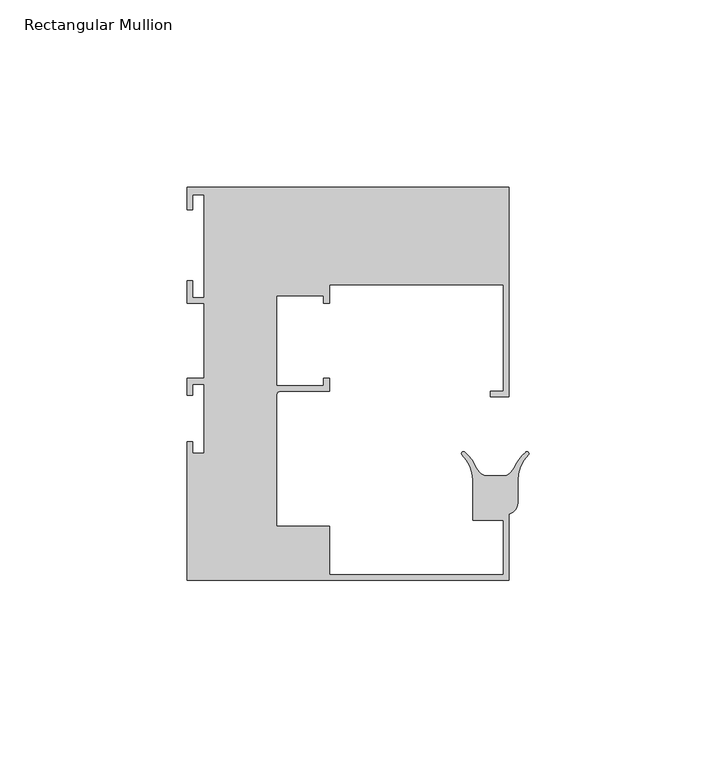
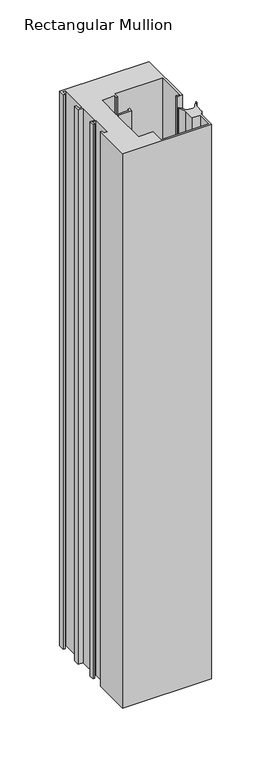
"""IFC4 building model written with IfcOpenShell, lengths in millimetres: member geometry, Rectangular Mullion : Danpal_Airpt_End-Mullion_B1."""

from ifc_helpers import new_model, si_unit, point, frame, frame_2d, origin, place, context, project, spatial, polyline, circle_curve, trimmed, segment, composite_curve, outline, extrude, source, transform, mapped, element, save


def rectangular_mullion_3ad53c9d(model_context):
    return source(origin(), model_context, "Body", "SweptSolid", [
        extrude(outline(composite_curve([segment(polyline([(28.3319078, 44.249979), (-18.1680922, 44.249979), (-18.1680922, 39.2500001), (-19.7680922, 39.2500001), (-19.7680922, 41.2500001), (-32.2500023, 41.2500001), (-32.2500023, 17.2500031), (-19.7500023, 17.2500031), (-19.7500023, 19.2500031), (-18.1500023, 19.2500031), (-18.1500023, 15.7500031), (-31.1983762, 15.7500031)]), True, "CONTINUOUS"), segment(trimmed(circle_curve(frame_2d((-31.1983762, 14.698377)), 1.0516261), [point((-31.1983762, 15.7500031))], [point((-32.2500023, 14.698377))], True, "CARTESIAN"), True, "CONTINUOUS"), segment(polyline([(-32.2500023, 14.698377), (-32.2500023, -20.2499969), (-18.1500023, -20.2499969), (-18.1500023, -33.2499969), (28.3500023, -33.2499969), (28.3500023, -18.6499969), (20.1500023, -18.6499969), (20.1500023, -7.8643287)]), True, "CONTINUOUS"), segment(trimmed(circle_curve(frame_2d((10.1541518, -8.1523787)), 10.0), [point((20.1500023, -7.8643287))], [point((17.3439806, -1.2021009))], True, "CARTESIAN"), True, "CONTINUOUS"), segment(trimmed(circle_curve(frame_2d((17.7037094, -0.8543575)), 0.5003301), [point((17.3439806, -1.2021009))], [point((18.026354, -0.4719563))], False, "CARTESIAN"), True, "CONTINUOUS"), segment(trimmed(circle_curve(frame_2d((11.5777192, -8.1149337)), 9.9999997), [point((18.026354, -0.4719563))], [point((20.5918518, -3.7853369))], False, "CARTESIAN"), True, "CONTINUOUS"), segment(trimmed(circle_curve(frame_2d((29.6059846, 0.5442599)), 10.0), [point((20.5918518, -3.7853369))], [point((21.8217605, -5.7331484))], True, "CARTESIAN"), True, "CONTINUOUS"), segment(trimmed(circle_curve(frame_2d((24.1570278, -3.8499259)), 3.0), [point((21.8217605, -5.7331484))], [point((24.1570278, -6.8499259))], True, "CARTESIAN"), True, "CONTINUOUS"), segment(polyline([(24.1570278, -6.8499259), (28.1956718, -6.8499259)]), True, "CONTINUOUS"), segment(trimmed(circle_curve(frame_2d((28.1956718, -3.8499259)), 3.0), [point((28.1956718, -6.8499259))], [point((30.5309383, -5.7331494))], True, "CARTESIAN"), True, "CONTINUOUS"), segment(trimmed(circle_curve(frame_2d((22.7467169, 0.544262)), 9.9999997), [point((30.5309383, -5.7331494))], [point((31.7608489, -3.785336))], True, "CARTESIAN"), True, "CONTINUOUS"), segment(trimmed(circle_curve(frame_2d((40.774981, -8.114934)), 9.9999998), [point((31.7608489, -3.785336))], [point((34.3289194, -0.4697862))], False, "CARTESIAN"), True, "CONTINUOUS"), segment(trimmed(circle_curve(frame_2d((34.6513305, -0.8521716)), 0.5001675), [point((34.3289194, -0.4697862))], [point((35.0108364, -1.1999114))], False, "CARTESIAN"), True, "CONTINUOUS"), segment(trimmed(circle_curve(frame_2d((42.198548, -8.1523787)), 10.0), [point((35.0108364, -1.1999114))], [point((32.1986067, -8.1181379))], True, "CARTESIAN"), True, "CONTINUOUS"), segment(polyline([(32.1986067, -8.1181379), (32.1986067, -14.1183419)]), True, "CONTINUOUS"), segment(trimmed(circle_curve(frame_2d((29.1986238, -14.1081309)), 3.0000002), [point((32.1986067, -14.1183419))], [point((29.8499992, -17.0365625))], False, "CARTESIAN"), True, "CONTINUOUS"), segment(polyline([(29.8499992, -17.0365625), (29.8499992, -34.75), (-56.15, -34.75), (-56.15, 2.25), (-54.65, 2.25), (-54.65, -0.75), (-51.65, -0.75), (-51.65, 17.65), (-54.65, 17.65), (-54.65, 14.65), (-56.15, 14.65), (-56.15, 19.25), (-51.6680922, 19.25), (-51.6680922, 39.2500001), (-56.1499985, 39.2500001), (-56.1499985, 45.2500001), (-54.6499985, 45.2500001), (-54.6499985, 40.7500001), (-51.6680922, 40.7500001), (-51.6680922, 68.2500001), (-54.6680922, 68.2500001), (-54.6680922, 64.2500001), (-56.1680922, 64.2500001), (-56.1680922, 70.2500001), (29.8319078, 70.2500001), (29.8319078, 14.2500001), (24.8319078, 14.2500001), (24.8319078, 15.7500001), (28.3319078, 15.7500001), (28.3319078, 44.249979)]), True, "CONTINUOUS")], self_intersect=False)), frame((0.0, 0.0, -565.3514979), z_axis=(0.0, 0.0, 1.0), x_axis=(1.0, 0.0, 0.0)), (0.0, 0.0, 1.0), 565.3514979),
    ])


if __name__ == "__main__":
    model = new_model("IFC4")
    model_context = context("Model", 3, world=origin())
    ifc_project = project(units=[si_unit("LENGTHUNIT", "METRE", prefix="MILLI")], contexts=[model_context])
    site = spatial("IfcSite", under=ifc_project)
    building = spatial("IfcBuilding", under=site)
    placement = place(None, origin())
    rectangular_mullion_shape = rectangular_mullion_3ad53c9d(model_context)
    element("IfcMember", 1, ObjectType="Rectangular Mullion : Danpal_Airpt_End-Mullion_B1", at=placement, inside=building, context=model_context, shape_type="MappedRepresentation", body=[
        mapped(rectangular_mullion_shape, transform((0.0, 0.0, 0.0), x_axis=(1.0, 0.0, 0.0), y_axis=(0.0, 1.0, 0.0), z_axis=(0.0, 0.0, 1.0))),
    ])
    save(model, "model.ifc")
